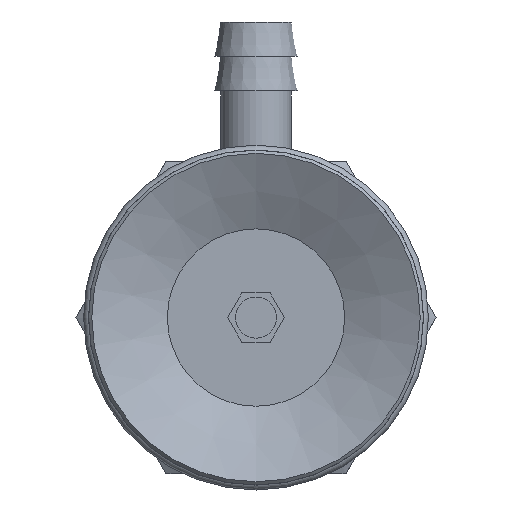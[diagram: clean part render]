
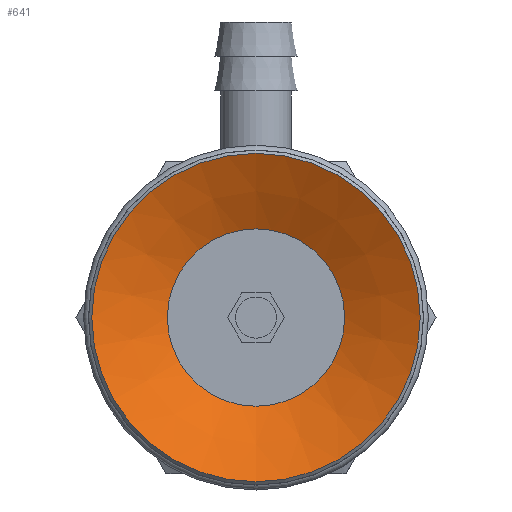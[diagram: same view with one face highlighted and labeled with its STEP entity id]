
A CAD part, front view. The second image highlights one B-rep face of the part: STEP entity #641.
In plain terms, the highlighted conical face has half-angle 63 degrees and reference radius 5.4 mm.
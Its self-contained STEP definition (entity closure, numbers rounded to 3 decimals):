
#641=ADVANCED_FACE('',(#971,#972),#973,.F.);
#971=FACE_BOUND('',#1334,.T.);
#972=FACE_OUTER_BOUND('',#1335,.T.);
#973=CONICAL_SURFACE('',#1336,5.4,1.1);
#1334=EDGE_LOOP('',(#2268));
#1335=EDGE_LOOP('',(#2269));
#1336=AXIS2_PLACEMENT_3D('',#2270,#2271,#2272);
#2268=ORIENTED_EDGE('',*,*,#2638,.F.);
#2269=ORIENTED_EDGE('',*,*,#2637,.T.);
#2270=CARTESIAN_POINT('',(0.0,5.518,0.0));
#2271=DIRECTION('',(-0.0,-1.0,0.));
#2272=DIRECTION('',(0.0,0.,-1.0));
#2637=EDGE_CURVE('',#3087,#3087,#3088,.T.);
#2638=EDGE_CURVE('',#3089,#3089,#3090,.T.);
#3087=VERTEX_POINT('',#4039);
#3088=CIRCLE('',#4040,10.0);
#3089=VERTEX_POINT('',#4041);
#3090=CIRCLE('',#4042,5.4);
#4039=CARTESIAN_POINT('',(0.0,3.175,-10.0));
#4040=AXIS2_PLACEMENT_3D('',#4480,#4481,#4482);
#4041=CARTESIAN_POINT('',(0.0,5.518,-5.4));
#4042=AXIS2_PLACEMENT_3D('',#4483,#4484,#4485);
#4480=CARTESIAN_POINT('',(0.0,3.175,0.0));
#4481=DIRECTION('',(0.0,-1.0,0.));
#4482=DIRECTION('',(0.0,0.,-1.0));
#4483=CARTESIAN_POINT('',(0.0,5.518,0.0));
#4484=DIRECTION('',(0.0,-1.0,0.));
#4485=DIRECTION('',(0.0,0.,-1.0));
